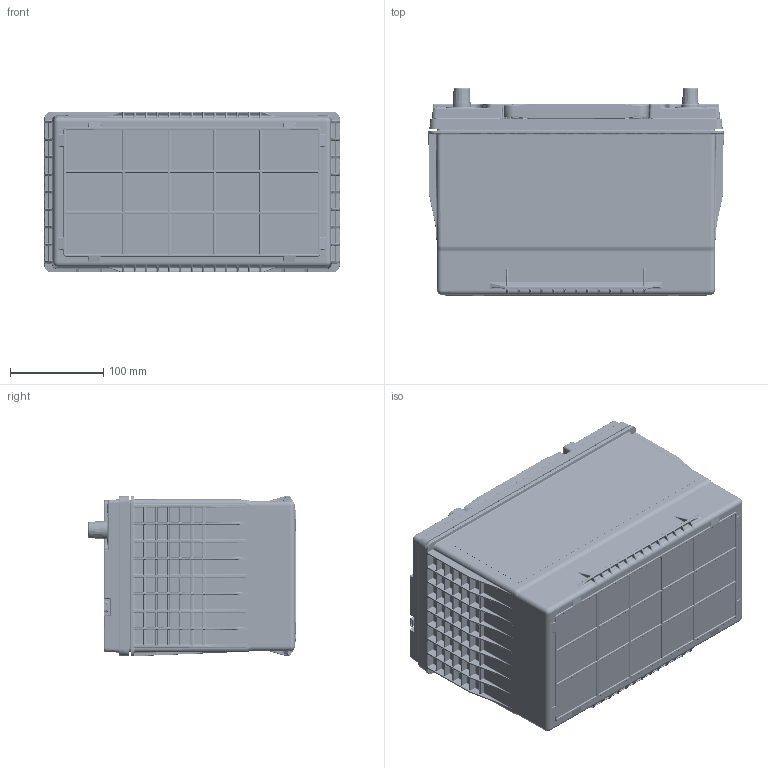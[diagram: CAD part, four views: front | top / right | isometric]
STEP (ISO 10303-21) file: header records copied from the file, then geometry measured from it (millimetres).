
FILE_DESCRIPTION (( 'STEP AP203' ), '1' );
FILE_NAME ('ODP-AGM27.STEP', '2024-03-25T20:22:06', ( '' ), ( '' ), 'SwSTEP 2.0', 'SolidWorks 2022', '' );
FILE_SCHEMA (( 'CONFIG_CONTROL_DESIGN' ));
Products named in the file (1): ODP-AGM27
Bounding box: 316 x 222.17 x 172 mm (x, y, z)
Surface area: 1225052.1 mm2 (no closed solid volume)
Topology: 0 solids, 147 shells, 13689 faces, 32620 edges, 18400 vertices
Faces by surface type: cylinder 4797, plane 3729, bspline 3326, sphere 855, torus 598, cone 384
Full cylindrical faces by diameter (mm): 0.1 x1, 0.2 x1, 6.35 x2, 7.7 x6, 10.084 x2, 10.1 x6, 10.312 x2, 14.275 x2, 15.596 x4, 15.875 x2, 18 x2, 19.025 x2, 19.101 x2, 19.329 x2, 19.99 x6, 20.625 x2, 25 x2, 33.325 x2
Entity records: 514172 total; most frequent: CARTESIAN_POINT 235335, ORIENTED_EDGE 62705, DIRECTION 53134, EDGE_CURVE 31354, AXIS2_PLACEMENT_3D 19586, VERTEX_POINT 18336, EDGE_LOOP 14156, LINE 13962
